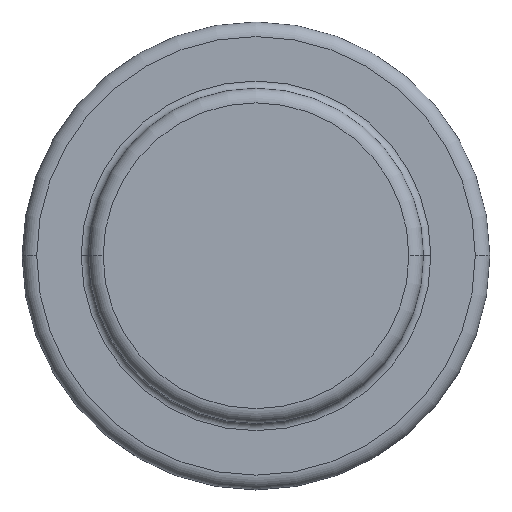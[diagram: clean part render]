
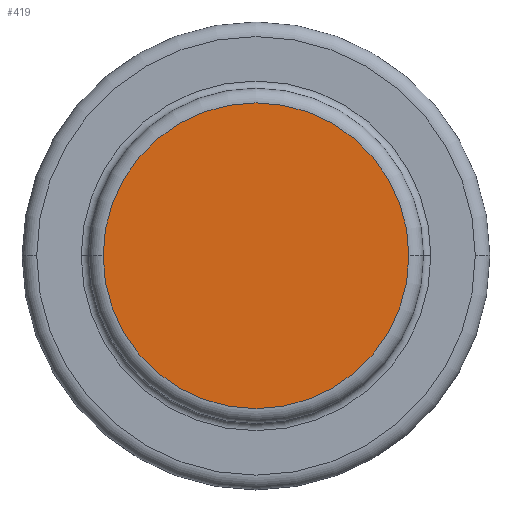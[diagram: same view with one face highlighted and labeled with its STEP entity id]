
A CAD part, top view. The second image highlights one B-rep face of the part: STEP entity #419.
In plain terms, the highlighted planar face has unit normal (0, 0, 1).
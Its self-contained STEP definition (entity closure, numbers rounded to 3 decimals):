
#9 = CARTESIAN_POINT ( 'NONE',  ( 31.877, 0., 27.788 ) ) ;
#15 = CARTESIAN_POINT ( 'NONE',  ( 0., 31.877, 27.788 ) ) ;
#83 = FACE_OUTER_BOUND ( 'NONE', #796, .T. ) ;
#88 = AXIS2_PLACEMENT_3D ( 'NONE', #351, #798, #304 ) ;
#106 = DIRECTION ( 'NONE',  ( 1., 0., 0. ) ) ;
#144 = CIRCLE ( 'NONE', #88, 31.877 ) ;
#154 = DIRECTION ( 'NONE',  ( 0., 0., -1. ) ) ;
#180 = CARTESIAN_POINT ( 'NONE',  ( -31.877, 0., 27.788 ) ) ;
#247 = ORIENTED_EDGE ( 'NONE', *, *, #564, .T. ) ;
#304 = DIRECTION ( 'NONE',  ( 1., 0., 0. ) ) ;
#351 = CARTESIAN_POINT ( 'NONE',  ( 0., 0., 27.788 ) ) ;
#419 = ADVANCED_FACE ( 'NONE', ( #83 ), #471, .F. ) ;
#460 = DIRECTION ( 'NONE',  ( -1., 0., 0. ) ) ;
#471 = PLANE ( 'NONE',  #818 ) ;
#486 = CARTESIAN_POINT ( 'NONE',  ( 0., 0., 27.788 ) ) ;
#492 = DIRECTION ( 'NONE',  ( 0., 0., 1. ) ) ;
#564 = EDGE_CURVE ( 'NONE', #761, #797, #144, .T. ) ;
#631 = EDGE_CURVE ( 'NONE', #797, #761, #640, .T. ) ;
#640 = CIRCLE ( 'NONE', #702, 31.877 ) ;
#702 = AXIS2_PLACEMENT_3D ( 'NONE', #486, #492, #106 ) ;
#734 = ORIENTED_EDGE ( 'NONE', *, *, #631, .T. ) ;
#761 = VERTEX_POINT ( 'NONE', #180 ) ;
#796 = EDGE_LOOP ( 'NONE', ( #734, #247 ) ) ;
#797 = VERTEX_POINT ( 'NONE', #9 ) ;
#798 = DIRECTION ( 'NONE',  ( 0., 0., 1. ) ) ;
#818 = AXIS2_PLACEMENT_3D ( 'NONE', #15, #154, #460 ) ;
